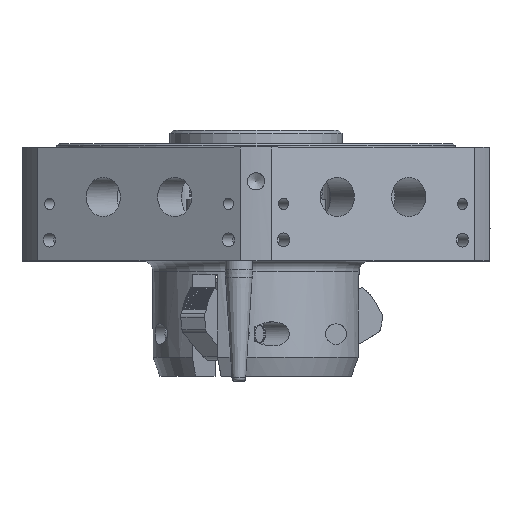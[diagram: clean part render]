
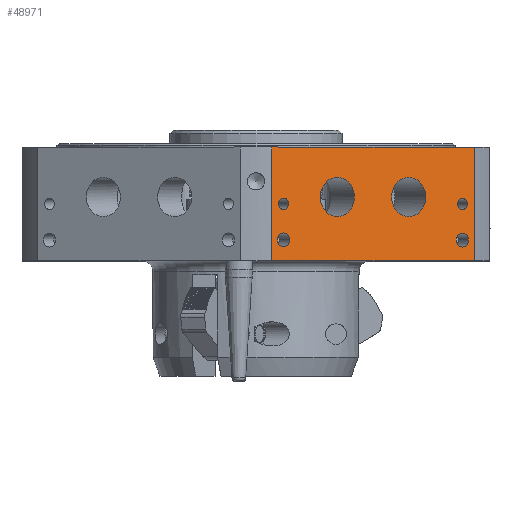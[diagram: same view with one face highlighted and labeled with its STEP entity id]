
A CAD part, top view. The second image highlights one B-rep face of the part: STEP entity #48971.
In plain terms, the highlighted planar face has unit normal (0.5, 0, 0.866).
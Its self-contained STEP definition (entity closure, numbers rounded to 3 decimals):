
#245 = DIRECTION ( 'NONE',  ( 0.5, 0., 0.866 ) ) ;
#416 = VECTOR ( 'NONE', #44320, 1000. ) ;
#658 = CARTESIAN_POINT ( 'NONE',  ( 49.348, 18.5, 50.028 ) ) ;
#1160 = ORIENTED_EDGE ( 'NONE', *, *, #45428, .F. ) ;
#1657 = DIRECTION ( 'NONE',  ( 0.5, 0., 0.866 ) ) ;
#2117 = EDGE_CURVE ( 'NONE', #23291, #23291, #30263, .T. ) ;
#2568 = EDGE_LOOP ( 'NONE', ( #17643, #13593, #30157, #40424 ) ) ;
#2898 = FACE_BOUND ( 'NONE', #34413, .T. ) ;
#3006 = EDGE_CURVE ( 'NONE', #40790, #28253, #6329, .T. ) ;
#3520 = CARTESIAN_POINT ( 'NONE',  ( 59.981, 6., 43.89 ) ) ;
#4386 = DIRECTION ( 'NONE',  ( 0.5, 0., 0.866 ) ) ;
#6292 = EDGE_CURVE ( 'NONE', #29132, #29132, #12518, .T. ) ;
#6329 = LINE ( 'NONE', #22589, #38031 ) ;
#6596 = AXIS2_PLACEMENT_3D ( 'NONE', #36761, #245, #16526 ) ;
#6860 = ORIENTED_EDGE ( 'NONE', *, *, #47883, .F. ) ;
#6866 = CARTESIAN_POINT ( 'NONE',  ( 4.606, 33., 75.86 ) ) ;
#6972 = CARTESIAN_POINT ( 'NONE',  ( 9.778, 6., 72.874 ) ) ;
#7175 = DIRECTION ( 'NONE',  ( -0.866, 0., 0.5 ) ) ;
#7271 = AXIS2_PLACEMENT_3D ( 'NONE', #50409, #13917, #30204 ) ;
#7753 = VERTEX_POINT ( 'NONE', #6866 ) ;
#8089 = CARTESIAN_POINT ( 'NONE',  ( 63.394, 33., 41.919 ) ) ;
#8296 = CARTESIAN_POINT ( 'NONE',  ( 23.608, 18.5, 64.89 ) ) ;
#9069 = CARTESIAN_POINT ( 'NONE',  ( 9.448, 16.5, 73.065 ) ) ;
#9778 = DIRECTION ( 'NONE',  ( 0., -1., 0. ) ) ;
#11167 = PLANE ( 'NONE',  #26105 ) ;
#11820 = LINE ( 'NONE', #28110, #416 ) ;
#12305 = EDGE_CURVE ( 'NONE', #7753, #28912, #44576, .T. ) ;
#12518 = CIRCLE ( 'NONE', #42292, 5.722 ) ;
#12708 = CARTESIAN_POINT ( 'NONE',  ( 63.394, 0., 41.919 ) ) ;
#13593 = ORIENTED_EDGE ( 'NONE', *, *, #29515, .F. ) ;
#13917 = DIRECTION ( 'NONE',  ( 0.5, 0., 0.866 ) ) ;
#13980 = CIRCLE ( 'NONE', #43750, 1.65 ) ;
#15176 = FACE_BOUND ( 'NONE', #15673, .T. ) ;
#15673 = EDGE_LOOP ( 'NONE', ( #43149 ) ) ;
#16526 = DIRECTION ( 'NONE',  ( 0.866, 0., -0.5 ) ) ;
#17643 = ORIENTED_EDGE ( 'NONE', *, *, #3006, .T. ) ;
#17919 = DIRECTION ( 'NONE',  ( 0.866, 0., -0.5 ) ) ;
#18356 = CIRCLE ( 'NONE', #48115, 2.031 ) ;
#18667 = AXIS2_PLACEMENT_3D ( 'NONE', #38159, #1657, #17919 ) ;
#18953 = EDGE_LOOP ( 'NONE', ( #6860 ) ) ;
#19168 = FACE_BOUND ( 'NONE', #39088, .T. ) ;
#19784 = DIRECTION ( 'NONE',  ( 0.5, 0., 0.866 ) ) ;
#20527 = CARTESIAN_POINT ( 'NONE',  ( 4.606, 0., 75.86 ) ) ;
#20570 = DIRECTION ( 'NONE',  ( 0.5, 0., 0.866 ) ) ;
#20663 = DIRECTION ( 'NONE',  ( 0.866, 0., -0.5 ) ) ;
#21819 = ORIENTED_EDGE ( 'NONE', *, *, #2117, .F. ) ;
#22589 = CARTESIAN_POINT ( 'NONE',  ( 63.394, 0., 41.919 ) ) ;
#23291 = VERTEX_POINT ( 'NONE', #39511 ) ;
#23753 = CARTESIAN_POINT ( 'NONE',  ( 63.394, 33., 41.919 ) ) ;
#24357 = DIRECTION ( 'NONE',  ( 0.866, 0., -0.5 ) ) ;
#26105 = AXIS2_PLACEMENT_3D ( 'NONE', #27449, #43658, #7175 ) ;
#26109 = EDGE_CURVE ( 'NONE', #37176, #37176, #41609, .T. ) ;
#27449 = CARTESIAN_POINT ( 'NONE',  ( 63.394, 33., 41.919 ) ) ;
#28110 = CARTESIAN_POINT ( 'NONE',  ( 4.606, 33., 75.86 ) ) ;
#28253 = VERTEX_POINT ( 'NONE', #12708 ) ;
#28912 = VERTEX_POINT ( 'NONE', #23753 ) ;
#29132 = VERTEX_POINT ( 'NONE', #45350 ) ;
#29515 = EDGE_CURVE ( 'NONE', #28912, #28253, #30052, .T. ) ;
#29587 = CIRCLE ( 'NONE', #6596, 2.031 ) ;
#30052 = LINE ( 'NONE', #46275, #34277 ) ;
#30157 = ORIENTED_EDGE ( 'NONE', *, *, #12305, .F. ) ;
#30204 = DIRECTION ( 'NONE',  ( 0.866, 0., -0.5 ) ) ;
#30263 = CIRCLE ( 'NONE', #7271, 1.65 ) ;
#31439 = FACE_BOUND ( 'NONE', #18953, .T. ) ;
#34277 = VECTOR ( 'NONE', #9778, 1000. ) ;
#34368 = ORIENTED_EDGE ( 'NONE', *, *, #26109, .F. ) ;
#34376 = VERTEX_POINT ( 'NONE', #50614 ) ;
#34413 = EDGE_LOOP ( 'NONE', ( #46401 ) ) ;
#35412 = FACE_BOUND ( 'NONE', #44458, .T. ) ;
#36028 = DIRECTION ( 'NONE',  ( 0.866, 0., -0.5 ) ) ;
#36761 = CARTESIAN_POINT ( 'NONE',  ( 8.019, 6., 73.89 ) ) ;
#36801 = DIRECTION ( 'NONE',  ( 0.866, 0., -0.5 ) ) ;
#37176 = VERTEX_POINT ( 'NONE', #658 ) ;
#38031 = VECTOR ( 'NONE', #38810, 1000. ) ;
#38159 = CARTESIAN_POINT ( 'NONE',  ( 44.392, 18.5, 52.89 ) ) ;
#38810 = DIRECTION ( 'NONE',  ( 0.866, 0., -0.5 ) ) ;
#39088 = EDGE_LOOP ( 'NONE', ( #34368 ) ) ;
#39511 = CARTESIAN_POINT ( 'NONE',  ( 61.41, 16.5, 43.065 ) ) ;
#40424 = ORIENTED_EDGE ( 'NONE', *, *, #46933, .T. ) ;
#40790 = VERTEX_POINT ( 'NONE', #20527 ) ;
#40795 = EDGE_CURVE ( 'NONE', #43463, #43463, #29587, .T. ) ;
#40886 = CARTESIAN_POINT ( 'NONE',  ( 8.019, 16.5, 73.89 ) ) ;
#41609 = CIRCLE ( 'NONE', #18667, 5.723 ) ;
#41612 = VECTOR ( 'NONE', #24357, 1000. ) ;
#42292 = AXIS2_PLACEMENT_3D ( 'NONE', #8296, #20570, #36801 ) ;
#43149 = ORIENTED_EDGE ( 'NONE', *, *, #40795, .F. ) ;
#43463 = VERTEX_POINT ( 'NONE', #6972 ) ;
#43658 = DIRECTION ( 'NONE',  ( -0.5, 0., -0.866 ) ) ;
#43750 = AXIS2_PLACEMENT_3D ( 'NONE', #40886, #4386, #20663 ) ;
#44320 = DIRECTION ( 'NONE',  ( 0., -1., 0. ) ) ;
#44458 = EDGE_LOOP ( 'NONE', ( #1160 ) ) ;
#44576 = LINE ( 'NONE', #8089, #41612 ) ;
#45350 = CARTESIAN_POINT ( 'NONE',  ( 28.564, 18.5, 62.028 ) ) ;
#45428 = EDGE_CURVE ( 'NONE', #45546, #45546, #13980, .T. ) ;
#45473 = EDGE_LOOP ( 'NONE', ( #21819 ) ) ;
#45546 = VERTEX_POINT ( 'NONE', #9069 ) ;
#46275 = CARTESIAN_POINT ( 'NONE',  ( 63.394, 33., 41.919 ) ) ;
#46401 = ORIENTED_EDGE ( 'NONE', *, *, #6292, .F. ) ;
#46933 = EDGE_CURVE ( 'NONE', #7753, #40790, #11820, .T. ) ;
#47663 = FACE_OUTER_BOUND ( 'NONE', #2568, .T. ) ;
#47883 = EDGE_CURVE ( 'NONE', #34376, #34376, #18356, .T. ) ;
#48115 = AXIS2_PLACEMENT_3D ( 'NONE', #3520, #19784, #36028 ) ;
#48971 = ADVANCED_FACE ( 'NONE', ( #2898, #19168, #35412, #51665, #15176, #31439, #47663 ), #11167, .F. ) ;
#50409 = CARTESIAN_POINT ( 'NONE',  ( 59.981, 16.5, 43.89 ) ) ;
#50614 = CARTESIAN_POINT ( 'NONE',  ( 61.74, 6., 42.874 ) ) ;
#51665 = FACE_BOUND ( 'NONE', #45473, .T. ) ;
